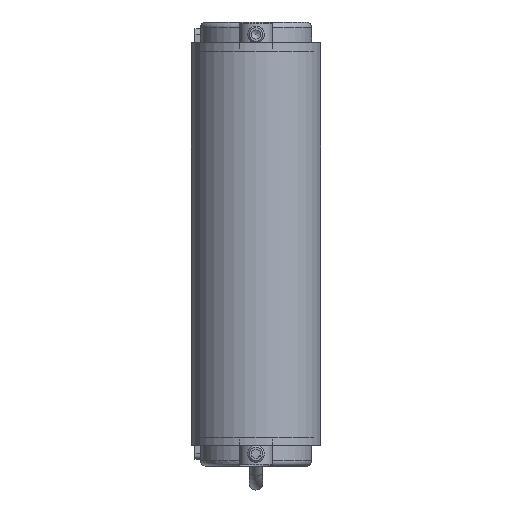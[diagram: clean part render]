
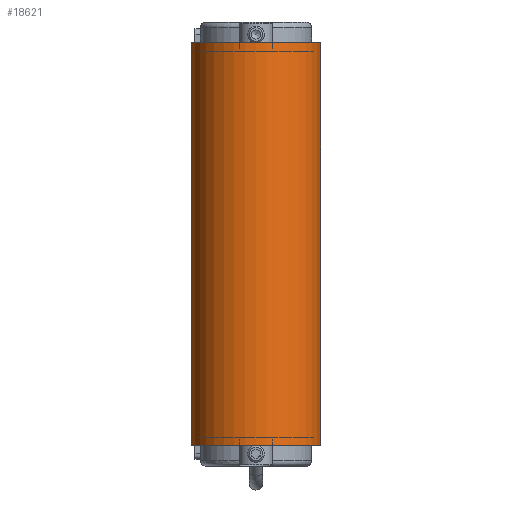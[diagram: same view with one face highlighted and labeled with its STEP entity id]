
A CAD part, front view. The second image highlights one B-rep face of the part: STEP entity #18621.
In plain terms, the highlighted cylindrical face has radius 23.3 mm (diameter 46.6 mm), a partial arc.
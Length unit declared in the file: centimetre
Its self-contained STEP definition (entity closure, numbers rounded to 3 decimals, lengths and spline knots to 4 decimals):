
#543=CYLINDRICAL_SURFACE('',#19904,2.33);
#1135=CIRCLE('',#19899,2.33);
#1138=CIRCLE('',#19905,2.33);
#1923=FACE_OUTER_BOUND('',#2936,.T.);
#2936=EDGE_LOOP('',(#12566,#12567,#12568,#12569));
#4213=LINE('',#27388,#5713);
#4214=LINE('',#27392,#5714);
#5713=VECTOR('',#22452,1.);
#5714=VECTOR('',#22457,1.);
#7376=VERTEX_POINT('',#27371);
#7377=VERTEX_POINT('',#27372);
#7382=VERTEX_POINT('',#27386);
#7383=VERTEX_POINT('',#27390);
#9405=EDGE_CURVE('',#7376,#7377,#1135,.T.);
#9413=EDGE_CURVE('',#7382,#7377,#4213,.T.);
#9414=EDGE_CURVE('',#7382,#7383,#1138,.T.);
#9415=EDGE_CURVE('',#7376,#7383,#4214,.T.);
#12566=ORIENTED_EDGE('',*,*,#9414,.T.);
#12567=ORIENTED_EDGE('',*,*,#9415,.F.);
#12568=ORIENTED_EDGE('',*,*,#9405,.T.);
#12569=ORIENTED_EDGE('',*,*,#9413,.F.);
#18621=ADVANCED_FACE('',(#1923),#543,.T.);
#19899=AXIS2_PLACEMENT_3D('',#27373,#22437,#22438);
#19904=AXIS2_PLACEMENT_3D('',#27389,#22453,#22454);
#19905=AXIS2_PLACEMENT_3D('',#27391,#22455,#22456);
#22437=DIRECTION('center_axis',(0.,0.,
-1.));
#22438=DIRECTION('ref_axis',(-1.,0.,0.));
#22452=DIRECTION('',(0.,0.,1.));
#22453=DIRECTION('center_axis',(0.,0.,
-1.));
#22454=DIRECTION('ref_axis',(-1.,0.,0.));
#22455=DIRECTION('center_axis',(0.,0.,
1.));
#22456=DIRECTION('ref_axis',(-1.,0.,0.));
#22457=DIRECTION('',(0.,0.,-1.));
#27371=CARTESIAN_POINT('',(2.33,-67.,7.25));
#27372=CARTESIAN_POINT('',(-2.33,-67.,7.25));
#27373=CARTESIAN_POINT('Origin',(0.,-67.,7.25));
#27386=CARTESIAN_POINT('',(-2.33,-67.,-7.25));
#27388=CARTESIAN_POINT('',(-2.33,-67.,0.));
#27389=CARTESIAN_POINT('Origin',(0.,-67.,0.));
#27390=CARTESIAN_POINT('',(2.33,-67.,-7.25));
#27391=CARTESIAN_POINT('Origin',(0.,-67.,-7.25));
#27392=CARTESIAN_POINT('',(2.33,-67.,0.));
